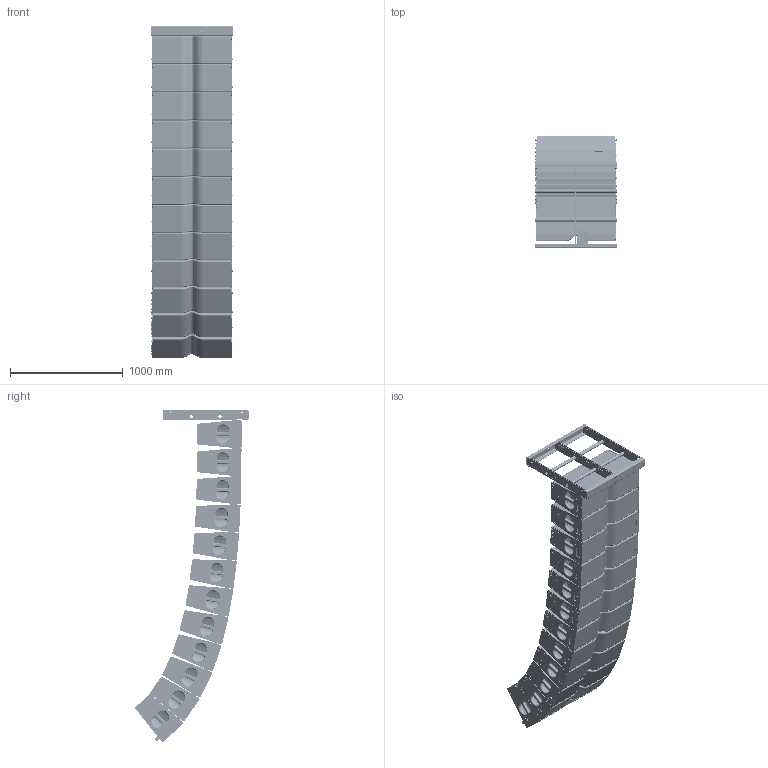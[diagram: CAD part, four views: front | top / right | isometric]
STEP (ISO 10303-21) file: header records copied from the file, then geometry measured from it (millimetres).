
FILE_DESCRIPTION(/* description */ (''),/* implementation_level */ '2;1');
FILE_NAME(/* name */ 'LA28 12 Box ARRAY v3.step',/* time_stamp */ '2023-01-22T00:38:19-08:00',/* author */ (''),/* organization */ (''),/* preprocessor_version */ 'ST-DEVELOPER v19.2',/* originating_system */ 'Autodesk Translation Framework v11.17.0.187',/* authorisation */ '');
FILE_SCHEMA (('AUTOMOTIVE_DESIGN { 1 0 10303 214 3 1 1 }'));
Length unit declared in the file: inch
Products named in the file (10): LA28 12 Box ARRAY; LA28 RF1 Sheet Metal Assembly; LA28RF1 Front Rear C Channel^la28RF1 SHEET METAL ASSEMBLY; LA28RF1 Center Bar^la28RF1 SHEET METAL ASSEMBLY; AL28RF1 Outer Bar^la28RF1 SHEET METAL ASSEMBLY; Inclinometer Mount Plate^la28RF1 SHEET METAL ASSEMBLY; Stabilizing Tube^la28RF1 SHEET METAL ASSEMBLY; Rear Connection Arm^la28RF1 SHEET METAL ASSEMBLY; LA18 LA28 Front Connection Tongue^la28RF1 SHEET METAL ASSEMBLY; LA28 TOUR BLOCK
Assembly tree (28 placements, depth 3):
  LA28 12 Box ARRAY
    LA28 RF1 Sheet Metal Assembly
      LA28RF1 Front Rear C Channel^la28RF1 SHEET METAL ASSEMBLY  x2
      LA28RF1 Center Bar^la28RF1 SHEET METAL ASSEMBLY  x2
      AL28RF1 Outer Bar^la28RF1 SHEET METAL ASSEMBLY  x4
      Inclinometer Mount Plate^la28RF1 SHEET METAL ASSEMBLY
      Stabilizing Tube^la28RF1 SHEET METAL ASSEMBLY  x2
      Rear Connection Arm^la28RF1 SHEET METAL ASSEMBLY  x2
      LA18 LA28 Front Connection Tongue^la28RF1 SHEET METAL ASSEMBLY  x2
    LA28 TOUR BLOCK  x12
Bounding box: 727.77 x 1003.95 x 2939.75 mm (x, y, z)
Volume: 693234368.5 mm3; surface area: 16438771.3 mm2
Topology: 27 solids, 27 shells, 5633 faces, 13761 edges, 8854 vertices
Faces by surface type: plane 2498, cylinder 2415, torus 648, bspline 72
Full cylindrical faces by diameter (mm): 6.35 x4, 8.319 x72, 8.382 x690, 8.7 x24, 13 x168, 16.51 x52, 17 x144, 19.05 x2, 22.86 x2, 25.4 x8, 27.178 x2, 31.75 x2, 32.004 x12
Entity records: 22846 total; most frequent: CARTESIAN_POINT 4185, DIRECTION 3940, ORIENTED_EDGE 3624, EDGE_CURVE 1812, AXIS2_PLACEMENT_3D 1411, VERTEX_POINT 1168, LINE 1118, VECTOR 1118
